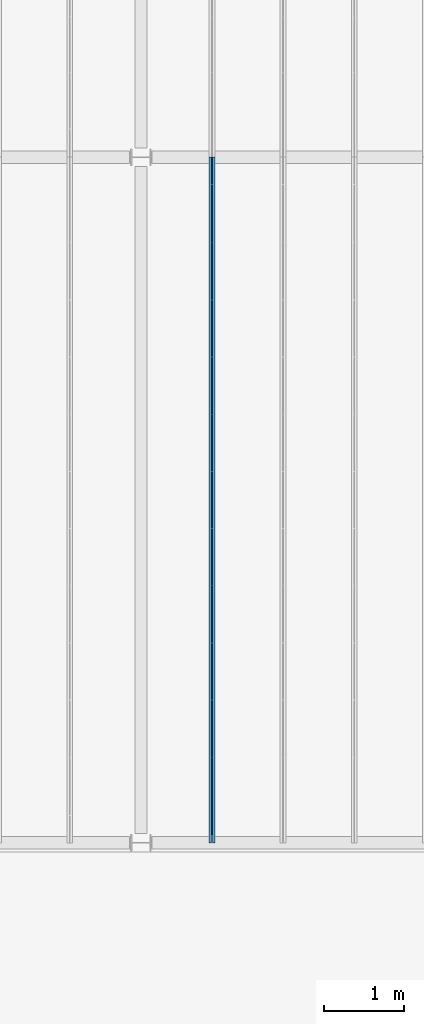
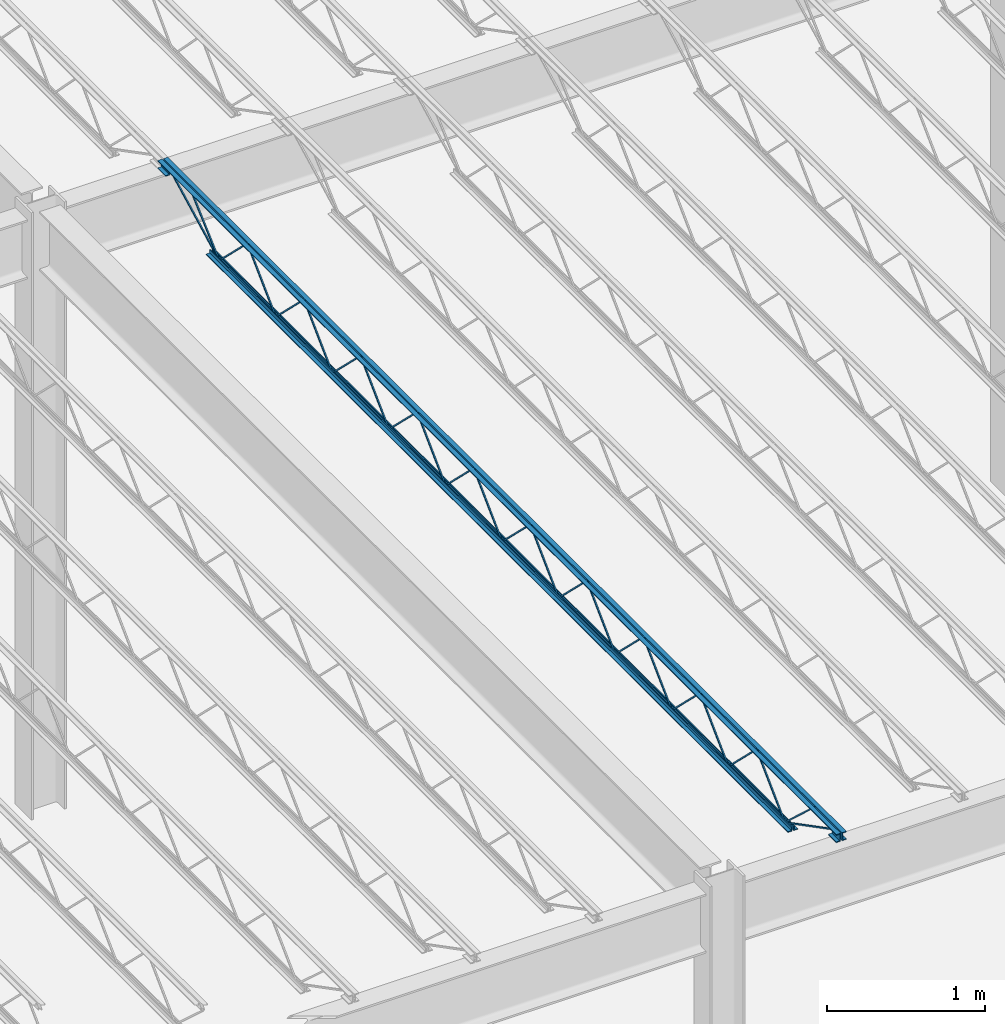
# One storey, part 33 of 119: 1 beam.
"""IFC2X3 building model written with IfcOpenShell, lengths in metres."""

from ifc_helpers import new_model, entity, si_unit, converted_unit, frame, origin, place, context, project, spatial, face_set, surface_model, element, save


model = new_model("IFC2X3")

# Units and contexts
model_context = context("Model", 3, precision=1e-09, world=origin())
plan_context = context("Plan", 3, precision=1e-09, world=origin())
ifc_project = project(units=[si_unit("LENGTHUNIT", "METRE"), si_unit("AREAUNIT", "SQUARE_METRE"), si_unit("VOLUMEUNIT", "CUBIC_METRE"), converted_unit("PLANEANGLEUNIT", "DEGREE", entity("IfcRatioMeasure", 0.01745329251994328), si_unit("PLANEANGLEUNIT", "RADIAN"), dimensions=[0, 0, 0, 0, 0, 0, 0]), si_unit("TIMEUNIT", "SECOND")], contexts=[model_context, plan_context])

# Site, building, storey
site_placement = place(None, origin())
site = spatial("IfcSite", under=ifc_project, at=site_placement, Name="Default", CompositionType="ELEMENT")
building_placement = place(site_placement, origin())
building = spatial("IfcBuilding", under=site, at=building_placement, CompositionType="ELEMENT")
storey_placement = place(building_placement, frame((0.0, 0.0, 4.570000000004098)))
storey = spatial("IfcBuildingStorey", under=building, at=storey_placement, Name="Second Floor", CompositionType="ELEMENT", Elevation=4.570000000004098)

# Beam
beam_placement = place(storey_placement, frame((-32.69800000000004, 10.04000000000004, 4.323999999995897), z_axis=(0.0, 0.0, 1.0), x_axis=(-1.0, 0.0, 0.0)))
element("IfcBeam", 1, at=beam_placement, inside=storey, Name="M_K-Series Bar Joist-Rod Web:14K1:14K1", ObjectType="M_K-Series Bar Joist-Rod Web:14K1", context=model_context, shape_type="SurfaceModel", body=[
    surface_model("IfcFaceBasedSurfaceModel", [(-0.03200000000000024, -2.141200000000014, 0.01110000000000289), (-0.04149999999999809, -2.141200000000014, 0.01110000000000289), (-0.04149999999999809, -2.141200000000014, 0.001600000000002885), (-0.03200000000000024, -2.141200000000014, 0.001600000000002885), (-0.04149999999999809, -2.139961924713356, 0.01110000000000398), (-0.03200000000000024, -2.139961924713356, 0.01110000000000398), (-0.04149999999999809, -2.136088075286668, 0.001600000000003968), (-0.04149999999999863, -1.78513807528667, 0.3449000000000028), (-0.04149999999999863, -1.782661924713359, 0.3449000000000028), (-0.04149999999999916, -1.431711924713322, 0.001600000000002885), (-0.04149999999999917, -1.426600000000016, 0.001600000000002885), (-0.04149999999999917, -1.426600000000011, 0.01110000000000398), (-0.04149999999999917, -1.427838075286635, 0.01110000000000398), (-0.04149999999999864, -1.778788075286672, 0.3544000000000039), (-0.04149999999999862, -1.789011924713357, 0.3544000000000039), (-0.03199999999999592, -2.136088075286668, 0.001600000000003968), (-0.03200000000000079, -1.78513807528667, 0.3449000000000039), (-0.03200000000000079, -1.782661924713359, 0.3449000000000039), (-0.03200000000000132, -1.431711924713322, 0.001600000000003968), (-0.03200000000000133, -1.426600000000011, 0.001600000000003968), (-0.03200000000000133, -1.426600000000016, 0.01110000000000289), (-0.03200000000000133, -1.427838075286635, 0.01110000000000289), (-0.03200000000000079, -1.778788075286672, 0.3544000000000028), (-0.03200000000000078, -1.789011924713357, 0.3544000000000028), (-0.03199999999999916, -2.855800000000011, 0.01110000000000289), (-0.04149999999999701, -2.855800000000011, 0.01110000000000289), (-0.04149999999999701, -2.855800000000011, 0.001600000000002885), (-0.03199999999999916, -2.855800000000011, 0.001600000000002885), (-0.04149999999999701, -2.854561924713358, 0.01110000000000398), (-0.03199999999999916, -2.854561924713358, 0.01110000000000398), (-0.04149999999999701, -2.850688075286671, 0.001600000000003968), (-0.04149999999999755, -2.499738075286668, 0.3449000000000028), (-0.04149999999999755, -2.497261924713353, 0.3449000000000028), (-0.04149999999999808, -2.146311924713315, 0.001600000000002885), (-0.04149999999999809, -2.141200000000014, 0.01110000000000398), (-0.04149999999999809, -2.142438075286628, 0.01110000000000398), (-0.04149999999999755, -2.493388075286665, 0.3544000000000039), (-0.04149999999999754, -2.503611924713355, 0.3544000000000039), (-0.03199999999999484, -2.850688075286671, 0.001600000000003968), (-0.0319999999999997, -2.499738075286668, 0.3449000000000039), (-0.0319999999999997, -2.497261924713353, 0.3449000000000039), (-0.03200000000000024, -2.146311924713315, 0.001600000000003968), (-0.03200000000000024, -2.141200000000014, 0.001600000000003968), (-0.03200000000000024, -2.142438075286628, 0.01110000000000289), (-0.03199999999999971, -2.493388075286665, 0.3544000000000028), (-0.0319999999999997, -2.503611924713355, 0.3544000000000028), (-0.03200000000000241, -3.570400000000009, 0.01110000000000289), (-0.04150000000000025, -3.570400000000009, 0.01110000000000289), (-0.04150000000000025, -3.570400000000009, 0.001600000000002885), (-0.03200000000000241, -3.570400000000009, 0.001600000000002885), (-0.04150000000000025, -3.569161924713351, 0.01110000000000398), (-0.03200000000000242, -3.569161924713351, 0.01110000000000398), (-0.04150000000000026, -3.565288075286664, 0.001600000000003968), (-0.04150000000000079, -3.214338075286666, 0.3449000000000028), (-0.04150000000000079, -3.211861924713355, 0.3449000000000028), (-0.04150000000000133, -2.860911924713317, 0.001600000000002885), (-0.04149999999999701, -2.855800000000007, 0.001600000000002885), (-0.04150000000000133, -2.855800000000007, 0.01110000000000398), (-0.04150000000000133, -2.857038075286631, 0.01110000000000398), (-0.0415000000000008, -3.207988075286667, 0.3544000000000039), (-0.04150000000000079, -3.218211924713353, 0.3544000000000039), (-0.03199999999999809, -3.565288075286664, 0.001600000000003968), (-0.03200000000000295, -3.214338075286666, 0.3449000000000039), (-0.03200000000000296, -3.211861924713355, 0.3449000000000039), (-0.03200000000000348, -2.860911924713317, 0.001600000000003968), (-0.03200000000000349, -2.855800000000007, 0.001600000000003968), (-0.03199999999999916, -2.855800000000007, 0.01110000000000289), (-0.03200000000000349, -2.857038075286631, 0.01110000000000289), (-0.03200000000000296, -3.207988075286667, 0.3544000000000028), (-0.03200000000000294, -3.218211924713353, 0.3544000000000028), (-0.03200000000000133, -4.285000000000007, 0.01110000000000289), (-0.04149999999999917, -4.285000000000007, 0.01110000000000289), (-0.04149999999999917, -4.285000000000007, 0.001600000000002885), (-0.03200000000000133, -4.285000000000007, 0.001600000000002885), (-0.04149999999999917, -4.283761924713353, 0.01110000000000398), (-0.03200000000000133, -4.283761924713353, 0.01110000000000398), (-0.04149999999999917, -4.279888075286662, 0.001600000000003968), (-0.0414999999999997, -3.928938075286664, 0.3449000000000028), (-0.04149999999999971, -3.926461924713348, 0.3449000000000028), (-0.04150000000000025, -3.575511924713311, 0.001600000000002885), (-0.04150000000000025, -3.570400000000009, 0.01110000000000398), (-0.04150000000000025, -3.571638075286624, 0.01110000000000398), (-0.04149999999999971, -3.922588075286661, 0.3544000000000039), (-0.0414999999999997, -3.932811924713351, 0.3544000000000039), (-0.031999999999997, -4.279888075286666, 0.001600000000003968), (-0.03200000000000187, -3.928938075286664, 0.3449000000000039), (-0.03200000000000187, -3.926461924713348, 0.3449000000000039), (-0.0320000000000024, -3.575511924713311, 0.001600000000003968), (-0.03200000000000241, -3.570400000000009, 0.001600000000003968), (-0.03200000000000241, -3.571638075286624, 0.01110000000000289), (-0.03200000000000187, -3.922588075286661, 0.3544000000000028), (-0.03200000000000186, -3.932811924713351, 0.3544000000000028), (-0.03200000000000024, -4.999600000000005, 0.01110000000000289), (-0.04149999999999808, -4.999600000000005, 0.01110000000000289), (-0.04149999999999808, -4.999600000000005, 0.001600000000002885), (-0.03200000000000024, -4.999600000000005, 0.001600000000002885), (-0.04149999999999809, -4.998361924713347, 0.01110000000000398), (-0.03200000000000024, -4.998361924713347, 0.01110000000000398), (-0.04149999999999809, -4.99448807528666, 0.001600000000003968), (-0.04149999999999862, -4.643538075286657, 0.3449000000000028), (-0.04149999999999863, -4.64106192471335, 0.3449000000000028), (-0.04149999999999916, -4.290111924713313, 0.001600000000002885), (-0.04149999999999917, -4.285000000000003, 0.001600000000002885), (-0.04149999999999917, -4.285000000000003, 0.01110000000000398), (-0.04149999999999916, -4.286238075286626, 0.01110000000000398), (-0.04149999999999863, -4.637188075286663, 0.3544000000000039), (-0.04149999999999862, -4.647411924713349, 0.3544000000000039), (-0.03199999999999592, -4.99448807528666, 0.001600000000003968), (-0.03200000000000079, -4.643538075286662, 0.3449000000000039), (-0.03200000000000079, -4.64106192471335, 0.3449000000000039), (-0.03200000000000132, -4.290111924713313, 0.001600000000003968), (-0.03200000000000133, -4.285000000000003, 0.001600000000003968), (-0.03200000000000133, -4.285000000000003, 0.01110000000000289), (-0.03200000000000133, -4.286238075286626, 0.01110000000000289), (-0.03200000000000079, -4.637188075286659, 0.3544000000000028), (-0.03200000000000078, -4.647411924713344, 0.3544000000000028), (-0.03200000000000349, -5.714200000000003, 0.01110000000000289), (-0.04150000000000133, -5.714200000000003, 0.01110000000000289), (-0.04150000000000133, -5.714200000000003, 0.001600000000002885), (-0.03200000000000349, -5.714200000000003, 0.001600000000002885), (-0.04150000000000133, -5.712961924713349, 0.01110000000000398), (-0.03200000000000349, -5.712961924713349, 0.01110000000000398), (-0.04149999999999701, -5.709088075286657, 0.001600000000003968), (-0.04149999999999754, -5.35813807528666, 0.3449000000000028), (-0.04149999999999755, -5.355661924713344, 0.3449000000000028), (-0.04149999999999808, -5.004711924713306, 0.001600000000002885), (-0.04150000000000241, -4.999600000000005, 0.01110000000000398), (-0.04150000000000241, -5.00083807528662, 0.01110000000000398), (-0.04150000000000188, -5.351788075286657, 0.3544000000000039), (-0.04150000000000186, -5.362011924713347, 0.3544000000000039), (-0.03199999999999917, -5.709088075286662, 0.001600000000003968), (-0.03200000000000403, -5.35813807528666, 0.3449000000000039), (-0.03200000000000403, -5.355661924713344, 0.3449000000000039), (-0.03200000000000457, -5.004711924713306, 0.001600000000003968), (-0.03200000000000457, -4.999600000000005, 0.001600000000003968), (-0.03200000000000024, -5.00083807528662, 0.01110000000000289), (-0.03199999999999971, -5.351788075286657, 0.3544000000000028), (-0.0319999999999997, -5.362011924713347, 0.3544000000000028), (-0.03200000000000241, -6.428800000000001, 0.01110000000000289), (-0.04150000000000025, -6.428800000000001, 0.01110000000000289), (-0.04150000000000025, -6.428800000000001, 0.001600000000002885), (-0.03200000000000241, -6.428800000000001, 0.001600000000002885), (-0.04150000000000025, -6.427561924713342, 0.01110000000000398), (-0.03200000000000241, -6.427561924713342, 0.01110000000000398), (-0.04150000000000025, -6.423688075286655, 0.001600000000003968), (-0.04150000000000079, -6.072738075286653, 0.3449000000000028), (-0.04150000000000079, -6.070261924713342, 0.3449000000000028), (-0.04150000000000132, -5.719311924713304, 0.001600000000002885), (-0.04150000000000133, -5.714199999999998, 0.001600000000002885), (-0.04150000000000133, -5.714199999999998, 0.01110000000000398), (-0.04150000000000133, -5.715438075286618, 0.01110000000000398), (-0.04150000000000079, -6.066388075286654, 0.3544000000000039), (-0.04150000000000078, -6.07661192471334, 0.3544000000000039), (-0.03199999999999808, -6.423688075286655, 0.001600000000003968), (-0.03200000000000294, -6.072738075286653, 0.3449000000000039), (-0.03200000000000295, -6.070261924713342, 0.3449000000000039), (-0.03200000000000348, -5.719311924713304, 0.001600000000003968), (-0.03200000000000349, -5.714199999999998, 0.001600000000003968), (-0.03200000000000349, -5.714199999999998, 0.01110000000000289), (-0.03200000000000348, -5.715438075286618, 0.01110000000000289), (-0.03200000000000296, -6.066388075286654, 0.3544000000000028), (-0.03200000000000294, -6.07661192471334, 0.3544000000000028), (-0.03200000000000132, -7.143399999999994, 0.01110000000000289), (-0.04149999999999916, -7.143399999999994, 0.01110000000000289), (-0.04149999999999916, -7.143399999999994, 0.001600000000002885), (-0.03200000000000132, -7.143399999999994, 0.001600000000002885), (-0.04149999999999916, -7.14216192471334, 0.01110000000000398), (-0.03200000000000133, -7.14216192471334, 0.01110000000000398), (-0.04149999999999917, -7.138288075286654, 0.001600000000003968), (-0.0414999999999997, -6.787338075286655, 0.3449000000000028), (-0.0414999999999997, -6.784861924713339, 0.3449000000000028), (-0.04150000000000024, -6.433911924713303, 0.001600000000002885), (-0.04150000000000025, -6.428799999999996, 0.001600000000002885), (-0.04150000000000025, -6.428799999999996, 0.01110000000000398), (-0.04150000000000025, -6.430038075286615, 0.01110000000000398), (-0.04149999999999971, -6.780988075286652, 0.3544000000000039), (-0.0414999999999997, -6.791211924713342, 0.3544000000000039), (-0.031999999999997, -7.138288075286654, 0.001600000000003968), (-0.03200000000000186, -6.787338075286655, 0.3449000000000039), (-0.03200000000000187, -6.784861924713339, 0.3449000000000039), (-0.0320000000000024, -6.433911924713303, 0.001600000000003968), (-0.03200000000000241, -6.428799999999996, 0.001600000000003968), (-0.03200000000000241, -6.428799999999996, 0.01110000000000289), (-0.0320000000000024, -6.430038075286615, 0.01110000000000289), (-0.03200000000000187, -6.780988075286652, 0.3544000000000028), (-0.03200000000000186, -6.791211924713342, 0.3544000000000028), (-0.03200000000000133, -1.426600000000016, 0.01109999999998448), (-0.04149999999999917, -1.426600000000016, 0.01109999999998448), (-0.04149999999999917, -1.426600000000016, 0.001599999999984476), (-0.03200000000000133, -1.426600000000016, 0.001599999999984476), (-0.04149999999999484, -1.425361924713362, 0.01109999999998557), (-0.031999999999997, -1.425361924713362, 0.01109999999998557), (-0.04149999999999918, -1.421488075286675, 0.001599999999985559), (-0.04149999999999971, -1.070538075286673, 0.3448999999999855), (-0.04149999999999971, -1.068061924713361, 0.3448999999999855), (-0.04150000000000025, -0.7171119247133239, 0.001599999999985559), (-0.04150000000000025, -0.712000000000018, 0.001599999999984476), (-0.04150000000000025, -0.7120000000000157, 0.01109999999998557), (-0.04150000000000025, -0.7132380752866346, 0.01109999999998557), (-0.04149999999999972, -1.06418807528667, 0.3543999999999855), (-0.0414999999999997, -1.07441192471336, 0.3543999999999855), (-0.031999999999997, -1.421488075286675, 0.001599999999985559), (-0.03199999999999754, -1.070538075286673, 0.3448999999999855), (-0.03199999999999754, -1.068061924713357, 0.3448999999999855), (-0.03199999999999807, -0.7171119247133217, 0.001599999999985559), (-0.03199999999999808, -0.7120000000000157, 0.001599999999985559), (-0.03200000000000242, -0.712000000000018, 0.01109999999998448), (-0.03199999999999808, -0.7132380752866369, 0.01109999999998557), (-0.03199999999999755, -1.064188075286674, 0.3543999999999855), (-0.03199999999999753, -1.07441192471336, 0.3543999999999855), (-0.03200000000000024, -7.857999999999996, 0.01110000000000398), (-0.04149999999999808, -7.857999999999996, 0.01110000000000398), (-0.04149999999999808, -7.857999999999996, 0.001600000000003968), (-0.03200000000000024, -7.857999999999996, 0.001600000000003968), (-0.04149999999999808, -7.856761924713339, 0.01110000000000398), (-0.03200000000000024, -7.856761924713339, 0.01110000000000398), (-0.04149999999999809, -7.852888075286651, 0.001600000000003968), (-0.04149999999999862, -7.501938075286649, 0.3449000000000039), (-0.04149999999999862, -7.499461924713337, 0.3449000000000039), (-0.04149999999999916, -7.1485119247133, 0.001600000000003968), (-0.04149999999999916, -7.143399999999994, 0.001600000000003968), (-0.04149999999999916, -7.143399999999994, 0.01110000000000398), (-0.04149999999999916, -7.144638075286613, 0.01110000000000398), (-0.04149999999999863, -7.49558807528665, 0.3544000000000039), (-0.04149999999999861, -7.505811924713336, 0.3544000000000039), (-0.03199999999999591, -7.852888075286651, 0.001600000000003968), (-0.03200000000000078, -7.501938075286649, 0.3449000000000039), (-0.03200000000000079, -7.499461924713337, 0.3449000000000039), (-0.03200000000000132, -7.1485119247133, 0.001600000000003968), (-0.03200000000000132, -7.143399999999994, 0.001600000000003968), (-0.03200000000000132, -7.143399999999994, 0.01110000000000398), (-0.03200000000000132, -7.144638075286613, 0.01110000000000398), (-0.03200000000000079, -7.49558807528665, 0.3544000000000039), (-0.03200000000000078, -7.505811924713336, 0.3544000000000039), (-0.04150000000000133, 0.0, 0.3559999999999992), (-0.07350000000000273, 0.0, 0.3559999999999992), (-0.07350000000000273, 0.0, 0.3494999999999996), (-0.04799999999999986, 0.0, 0.3494999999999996), (-0.04799999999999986, 0.0, 0.3239999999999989), (-0.04150000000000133, 0.0, 0.3239999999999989), (-0.03200000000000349, 0.0, 0.3559999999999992), (-0.03200000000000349, 0.0, 0.3239999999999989), (-0.02550000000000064, 0.0, 0.3239999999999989), (-0.02550000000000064, 0.0, 0.3494999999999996), (0.0, 0.0, 0.3494999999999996), (0.0, 0.0, 0.3559999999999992), (-0.04149999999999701, -8.569999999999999, 0.3559999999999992), (-0.07349999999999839, -8.569999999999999, 0.3559999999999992), (-0.07349999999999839, -8.569999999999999, 0.3494999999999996), (-0.04799999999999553, -8.569999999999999, 0.3494999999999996), (-0.04799999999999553, -8.569999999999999, 0.3239999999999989), (-0.04149999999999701, -8.569999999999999, 0.3239999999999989), (-0.03199999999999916, -8.569999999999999, 0.3559999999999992), (-0.03199999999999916, -8.569999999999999, 0.3239999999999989), (-0.02549999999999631, -8.569999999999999, 0.3239999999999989), (-0.02549999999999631, -8.569999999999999, 0.3494999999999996), (0.0, -8.569999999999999, 0.3494999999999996), (0.0, -8.569999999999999, 0.3559999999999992), (-0.03199999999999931, -8.470000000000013, 0.2924999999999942), (0.0, -8.470000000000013, 0.2924999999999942), (0.0, -8.470000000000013, 0.2989999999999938), (-0.02550000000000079, -8.470000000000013, 0.2989999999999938), (-0.02550000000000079, -8.470000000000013, 0.3239999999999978), (-0.03199999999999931, -8.470000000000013, 0.3239999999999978), (-0.07349999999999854, -8.470000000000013, 0.2924999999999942), (-0.04149999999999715, -8.470000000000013, 0.2924999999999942), (-0.04149999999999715, -8.470000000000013, 0.3239999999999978), (-0.048, -8.470000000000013, 0.3239999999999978), (-0.048, -8.470000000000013, 0.2989999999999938), (-0.07349999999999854, -8.470000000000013, 0.2989999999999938), (-0.03199999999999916, -8.569999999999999, 0.2924999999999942), (0.0, -8.569999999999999, 0.2924999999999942), (0.0, -8.569999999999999, 0.2989999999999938), (-0.02550000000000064, -8.569999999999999, 0.2989999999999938), (-0.02550000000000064, -8.569999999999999, 0.3239999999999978), (-0.03199999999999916, -8.569999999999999, 0.3239999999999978), (-0.07349999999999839, -8.569999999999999, 0.2924999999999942), (-0.04149999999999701, -8.569999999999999, 0.2924999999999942), (-0.04149999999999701, -8.569999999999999, 0.3239999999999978), (-0.04799999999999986, -8.569999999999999, 0.3239999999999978), (-0.04799999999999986, -8.569999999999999, 0.2989999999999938), (-0.07349999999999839, -8.569999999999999, 0.2989999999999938), (-0.04150000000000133, 0.0, 0.2924999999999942), (-0.04150000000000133, 0.0, 0.3239999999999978), (-0.04800000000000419, 0.0, 0.3239999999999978), (-0.04800000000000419, 0.0, 0.2989999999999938), (-0.07350000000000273, 0.0, 0.2989999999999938), (-0.07350000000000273, 0.0, 0.2924999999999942), (-0.03200000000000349, 0.0, 0.2924999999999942), (0.0, 0.0, 0.2924999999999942), (0.0, 0.0, 0.2989999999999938), (-0.02550000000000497, 0.0, 0.2989999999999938), (-0.02550000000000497, 0.0, 0.3239999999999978), (-0.03200000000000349, 0.0, 0.3239999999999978), (-0.04150000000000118, -0.09999999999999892, 0.2924999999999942), (-0.04150000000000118, -0.09999999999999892, 0.3239999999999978), (-0.04800000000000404, -0.09999999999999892, 0.3239999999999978), (-0.04800000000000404, -0.09999999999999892, 0.2989999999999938), (-0.07350000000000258, -0.09999999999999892, 0.2989999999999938), (-0.07350000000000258, -0.09999999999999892, 0.2924999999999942), (-0.03200000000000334, -0.09999999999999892, 0.2924999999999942), (0.0, -0.09999999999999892, 0.2924999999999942), (0.0, -0.09999999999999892, 0.2989999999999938), (-0.02550000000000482, -0.09999999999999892, 0.2989999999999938), (-0.02550000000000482, -0.09999999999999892, 0.3239999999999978), (-0.03200000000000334, -0.09999999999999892, 0.3239999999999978), (-0.04150000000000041, -0.6119999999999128, 0.0), (-0.04150000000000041, -0.6119999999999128, 0.03199999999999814), (-0.04799999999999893, -0.6119999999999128, 0.03199999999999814), (-0.04799999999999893, -0.6119999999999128, 0.006499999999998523), (-0.0735000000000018, -0.6119999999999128, 0.006499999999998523), (-0.0735000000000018, -0.6119999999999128, 0.0), (-0.03200000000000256, -0.6119999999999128, 0.0), (0.0, -0.6119999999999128, 0.0), (0.0, -0.6119999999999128, 0.006499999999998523), (-0.02549999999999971, -0.6119999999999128, 0.006499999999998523), (-0.02549999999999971, -0.6119999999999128, 0.03199999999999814), (-0.03200000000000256, -0.6119999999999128, 0.03199999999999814), (-0.04149999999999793, -7.957999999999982, 0.0), (-0.04149999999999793, -7.957999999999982, 0.03199999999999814), (-0.04799999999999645, -7.957999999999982, 0.03199999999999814), (-0.04799999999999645, -7.957999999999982, 0.006499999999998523), (-0.07349999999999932, -7.957999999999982, 0.006499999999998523), (-0.07349999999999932, -7.957999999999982, 0.0), (-0.03200000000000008, -7.957999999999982, 0.0), (0.0, -7.957999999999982, 0.0), (0.0, -7.957999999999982, 0.006499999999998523), (-0.02549999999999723, -7.957999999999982, 0.006499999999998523), (-0.02549999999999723, -7.957999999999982, 0.03199999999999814), (-0.03200000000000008, -7.957999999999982, 0.03199999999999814), (-0.03200000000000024, -7.855811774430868, 0.01056594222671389), (-0.04149999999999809, -7.855811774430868, 0.01056594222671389), (-0.04149999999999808, -7.860188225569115, 0.002134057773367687), (-0.03200000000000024, -7.860188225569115, 0.00213405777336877), (-0.03199999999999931, -8.468840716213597, 0.3287499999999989), (-0.03199999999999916, -8.569999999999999, 0.3287499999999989), (-0.03199999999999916, -8.569999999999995, 0.3192499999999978), (-0.03199999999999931, -8.471159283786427, 0.3192499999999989), (-0.04150000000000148, -8.471159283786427, 0.3192499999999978), (-0.04149999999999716, -8.468840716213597, 0.3287499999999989), (-0.04149999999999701, -8.569999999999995, 0.3287499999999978), (-0.04149999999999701, -8.569999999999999, 0.3192499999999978), (-0.03199999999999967, -8.235257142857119, 0.3417000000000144), (-0.04149999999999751, -8.235257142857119, 0.3417000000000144), (-0.04149999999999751, -8.235257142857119, 0.3322000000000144), (-0.03199999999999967, -8.235257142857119, 0.3322000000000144), (-0.04149999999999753, -8.220724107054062, 0.3417000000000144), (-0.03199999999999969, -8.220724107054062, 0.3417000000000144), (-0.04149999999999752, -8.22439017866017, 0.3322000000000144), (-0.04149999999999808, -7.86119088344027, 0.002831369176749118), (-0.04149999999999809, -7.854809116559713, 0.009868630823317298), (-0.03199999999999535, -8.22439017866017, 0.3322000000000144), (-0.03200000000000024, -7.86119088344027, 0.002831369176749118), (-0.03200000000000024, -7.854809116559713, 0.009868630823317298), (-0.03200000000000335, -0.09781177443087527, 0.3197840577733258), (-0.03200000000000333, -0.1021882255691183, 0.328215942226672), (-0.04150000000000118, -0.1021882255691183, 0.328215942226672), (-0.04150000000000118, -0.09781177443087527, 0.3197840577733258), (-0.03200000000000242, -0.7098117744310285, 0.002134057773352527), (-0.03200000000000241, -0.7141882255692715, 0.01056594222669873), (-0.04150000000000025, -0.7141882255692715, 0.01056594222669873), (-0.04150000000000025, -0.7098117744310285, 0.002134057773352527), (-0.03200000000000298, -0.3369634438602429, 0.3461600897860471), (-0.03200000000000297, -0.3434079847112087, 0.3531399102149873), (-0.04150000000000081, -0.3434079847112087, 0.3531399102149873), (-0.04150000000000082, -0.3369634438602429, 0.3461600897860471), (-0.03200000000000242, -0.7087777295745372, 0.00286008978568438), (-0.03200000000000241, -0.7152222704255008, 0.009839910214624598), (-0.04150000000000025, -0.7152222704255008, 0.009839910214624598), (-0.04150000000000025, -0.7087777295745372, 0.00286008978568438)], [face_set([[[0, 1, 2, 3]], [[1, 4, 5, 0]], [[2, 6, 7, 8, 9, 10, 11, 12, 13, 14, 4, 1]], [[3, 2, 6, 15]], [[0, 3, 15, 16, 17, 18, 19, 20, 21, 22, 23, 5]], [[4, 5, 23, 14]], [[15, 16, 7, 6]], [[14, 13, 22, 23]], [[16, 7, 8, 17]], [[13, 12, 21, 22]], [[17, 8, 9, 18]], [[20, 11, 10, 19]], [[12, 11, 20, 21]], [[18, 9, 10, 19]]]), face_set([[[24, 25, 26, 27]], [[25, 28, 29, 24]], [[26, 30, 31, 32, 33, 2, 34, 35, 36, 37, 28, 25]], [[27, 26, 30, 38]], [[24, 27, 38, 39, 40, 41, 42, 0, 43, 44, 45, 29]], [[28, 29, 45, 37]], [[38, 39, 31, 30]], [[37, 36, 44, 45]], [[39, 31, 32, 40]], [[36, 35, 43, 44]], [[40, 32, 33, 41]], [[0, 34, 2, 42]], [[35, 34, 0, 43]], [[41, 33, 2, 42]]]), face_set([[[46, 47, 48, 49]], [[47, 50, 51, 46]], [[48, 52, 53, 54, 55, 56, 57, 58, 59, 60, 50, 47]], [[49, 48, 52, 61]], [[46, 49, 61, 62, 63, 64, 65, 66, 67, 68, 69, 51]], [[50, 51, 69, 60]], [[61, 62, 53, 52]], [[60, 59, 68, 69]], [[62, 53, 54, 63]], [[59, 58, 67, 68]], [[63, 54, 55, 64]], [[66, 57, 56, 65]], [[58, 57, 66, 67]], [[64, 55, 56, 65]]]), face_set([[[70, 71, 72, 73]], [[71, 74, 75, 70]], [[72, 76, 77, 78, 79, 48, 80, 81, 82, 83, 74, 71]], [[73, 72, 76, 84]], [[70, 73, 84, 85, 86, 87, 88, 46, 89, 90, 91, 75]], [[74, 75, 91, 83]], [[84, 85, 77, 76]], [[83, 82, 90, 91]], [[85, 77, 78, 86]], [[82, 81, 89, 90]], [[86, 78, 79, 87]], [[46, 80, 48, 88]], [[81, 80, 46, 89]], [[87, 79, 48, 88]]]), face_set([[[92, 93, 94, 95]], [[93, 96, 97, 92]], [[94, 98, 99, 100, 101, 102, 103, 104, 105, 106, 96, 93]], [[95, 94, 98, 107]], [[92, 95, 107, 108, 109, 110, 111, 112, 113, 114, 115, 97]], [[96, 97, 115, 106]], [[107, 108, 99, 98]], [[106, 105, 114, 115]], [[108, 99, 100, 109]], [[105, 104, 113, 114]], [[109, 100, 101, 110]], [[112, 103, 102, 111]], [[104, 103, 112, 113]], [[110, 101, 102, 111]]]), face_set([[[116, 117, 118, 119]], [[117, 120, 121, 116]], [[118, 122, 123, 124, 125, 94, 126, 127, 128, 129, 120, 117]], [[119, 118, 122, 130]], [[116, 119, 130, 131, 132, 133, 134, 92, 135, 136, 137, 121]], [[120, 121, 137, 129]], [[130, 131, 123, 122]], [[129, 128, 136, 137]], [[131, 123, 124, 132]], [[128, 127, 135, 136]], [[132, 124, 125, 133]], [[92, 126, 94, 134]], [[127, 126, 92, 135]], [[133, 125, 94, 134]]]), face_set([[[138, 139, 140, 141]], [[139, 142, 143, 138]], [[140, 144, 145, 146, 147, 148, 149, 150, 151, 152, 142, 139]], [[141, 140, 144, 153]], [[138, 141, 153, 154, 155, 156, 157, 158, 159, 160, 161, 143]], [[142, 143, 161, 152]], [[153, 154, 145, 144]], [[152, 151, 160, 161]], [[154, 145, 146, 155]], [[151, 150, 159, 160]], [[155, 146, 147, 156]], [[158, 149, 148, 157]], [[150, 149, 158, 159]], [[156, 147, 148, 157]]]), face_set([[[162, 163, 164, 165]], [[163, 166, 167, 162]], [[164, 168, 169, 170, 171, 172, 173, 174, 175, 176, 166, 163]], [[165, 164, 168, 177]], [[162, 165, 177, 178, 179, 180, 181, 182, 183, 184, 185, 167]], [[166, 167, 185, 176]], [[177, 178, 169, 168]], [[176, 175, 184, 185]], [[178, 169, 170, 179]], [[175, 174, 183, 184]], [[179, 170, 171, 180]], [[182, 173, 172, 181]], [[174, 173, 182, 183]], [[180, 171, 172, 181]]]), face_set([[[186, 187, 188, 189]], [[187, 190, 191, 186]], [[188, 192, 193, 194, 195, 196, 197, 198, 199, 200, 190, 187]], [[189, 188, 192, 201]], [[186, 189, 201, 202, 203, 204, 205, 206, 207, 208, 209, 191]], [[190, 191, 209, 200]], [[201, 202, 193, 192]], [[200, 199, 208, 209]], [[202, 193, 194, 203]], [[199, 198, 207, 208]], [[203, 194, 195, 204]], [[206, 197, 196, 205]], [[198, 197, 206, 207]], [[204, 195, 196, 205]]]), face_set([[[210, 211, 212, 213]], [[211, 214, 215, 210]], [[212, 216, 217, 218, 219, 220, 221, 222, 223, 224, 214, 211]], [[213, 212, 216, 225]], [[210, 213, 225, 226, 227, 228, 229, 230, 231, 232, 233, 215]], [[214, 215, 233, 224]], [[225, 226, 217, 216]], [[224, 223, 232, 233]], [[226, 217, 218, 227]], [[223, 222, 231, 232]], [[227, 218, 219, 228]], [[230, 221, 220, 229]], [[222, 221, 230, 231]], [[228, 219, 220, 229]]]), face_set([[[234, 235, 236, 237, 238, 239]], [[240, 241, 242, 243, 244, 245]], [[246, 247, 248, 249, 250, 251]], [[252, 253, 254, 255, 256, 257]], [[239, 234, 246, 251]], [[238, 239, 251, 250]], [[237, 249, 250, 238]], [[236, 237, 249, 248]], [[235, 247, 248, 236]], [[234, 246, 247, 235]], [[245, 257, 252, 240]], [[244, 245, 257, 256]], [[243, 244, 256, 255]], [[242, 243, 255, 254]], [[241, 242, 254, 253]], [[240, 252, 253, 241]]]), face_set([[[258, 259, 260, 261, 262, 263]], [[264, 265, 266, 267, 268, 269]], [[270, 271, 272, 273, 274, 275]], [[276, 277, 278, 279, 280, 281]], [[263, 275, 270, 258]], [[262, 274, 275, 263]], [[261, 262, 274, 273]], [[260, 272, 273, 261]], [[259, 260, 272, 271]], [[258, 259, 271, 270]], [[269, 281, 276, 264]], [[268, 280, 281, 269]], [[267, 279, 280, 268]], [[266, 278, 279, 267]], [[265, 266, 278, 277]], [[264, 265, 277, 276]]]), face_set([[[282, 283, 284, 285, 286, 287]], [[288, 289, 290, 291, 292, 293]], [[294, 295, 296, 297, 298, 299]], [[300, 301, 302, 303, 304, 305]], [[287, 282, 294, 299]], [[286, 298, 299, 287]], [[285, 297, 298, 286]], [[284, 296, 297, 285]], [[283, 295, 296, 284]], [[282, 283, 295, 294]], [[293, 305, 300, 288]], [[292, 304, 305, 293]], [[291, 292, 304, 303]], [[290, 302, 303, 291]], [[289, 290, 302, 301]], [[288, 289, 301, 300]]]), face_set([[[306, 307, 308, 309, 310, 311]], [[312, 313, 314, 315, 316, 317]], [[318, 319, 320, 321, 322, 323]], [[324, 325, 326, 327, 328, 329]], [[311, 306, 318, 323]], [[310, 322, 323, 311]], [[309, 321, 322, 310]], [[308, 320, 321, 309]], [[307, 319, 320, 308]], [[306, 307, 319, 318]], [[317, 329, 324, 312]], [[316, 328, 329, 317]], [[315, 316, 328, 327]], [[314, 326, 327, 315]], [[313, 314, 326, 325]], [[312, 313, 325, 324]]]), face_set([[[330, 331, 332, 333]], [[333, 330, 334, 335, 336, 337]], [[332, 333, 337, 338]], [[331, 339, 340, 341, 338, 332]], [[330, 334, 339, 331]], [[335, 340, 341, 336]], [[338, 337, 336, 341]], [[334, 335, 340, 339]]]), face_set([[[342, 343, 344, 345]], [[343, 346, 347, 342]], [[344, 348, 349, 350, 346, 343]], [[345, 344, 348, 351]], [[342, 345, 351, 352, 353, 347]], [[353, 350, 349, 352]], [[346, 350, 353, 347]], [[351, 348, 349, 352]]]), face_set([[[354, 355, 356, 357]], [[358, 359, 360, 361]], [[357, 354, 358, 361]], [[356, 360, 361, 357]], [[355, 359, 360, 356]], [[354, 355, 359, 358]]]), face_set([[[362, 363, 364, 365]], [[366, 367, 368, 369]], [[365, 369, 366, 362]], [[364, 368, 369, 365]], [[363, 364, 368, 367]], [[362, 363, 367, 366]]])]),
])

save(model, "model.ifc")
